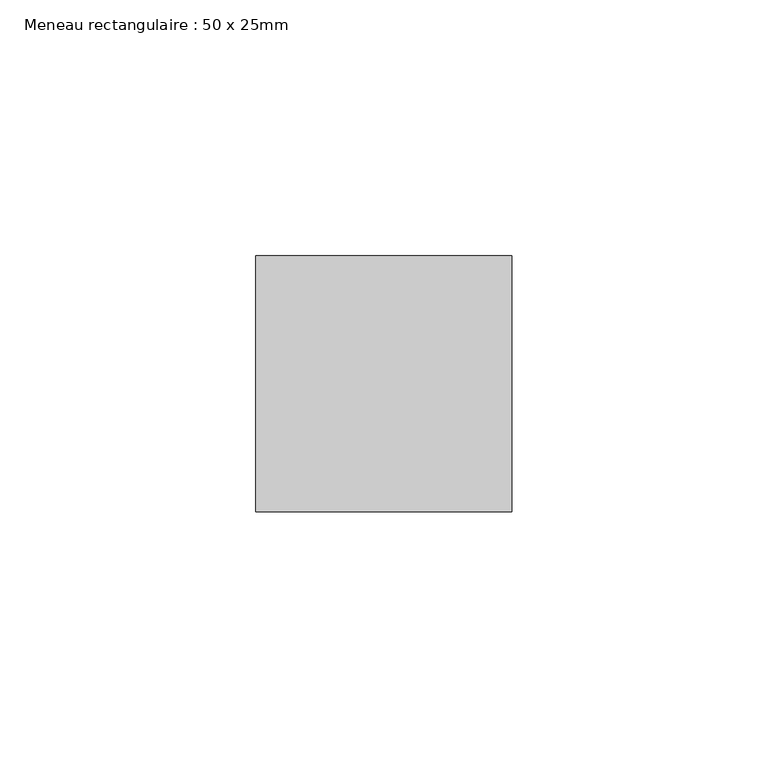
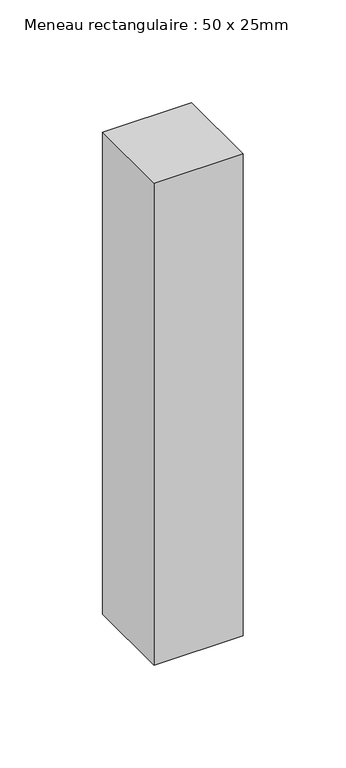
"""IFC4 building model written with IfcOpenShell, lengths in millimetres: member geometry, Meneau rectangulaire : 50 x 25mm."""

from ifc_helpers import new_model, si_unit, frame, origin, place, context, project, spatial, polyline, outline, extrude, source, transform, mapped, element, save


def meneau_rectangulaire_50_x_25mm_455a3bfe(model_context):
    return source(origin(), model_context, "Body", "SweptSolid", [
        extrude(outline(polyline([(25.0, 0.0), (25.0, -50.0), (-25.0, -50.0), (-25.0, 0.0), (25.0, 0.0)])), frame((0.0, 0.0, -286.0), z_axis=(0.0, 0.0, 1.0), x_axis=(1.0, 0.0, 0.0)), (0.0, 0.0, 1.0), 286.0),
    ])


if __name__ == "__main__":
    model = new_model("IFC4")
    model_context = context("Model", 3, world=origin())
    ifc_project = project(units=[si_unit("LENGTHUNIT", "METRE", prefix="MILLI")], contexts=[model_context])
    site = spatial("IfcSite", under=ifc_project)
    building = spatial("IfcBuilding", under=site)
    placement = place(None, origin())
    meneau_rectangulaire_50_x_25mm_shape = meneau_rectangulaire_50_x_25mm_455a3bfe(model_context)
    element("IfcMember", 1, ObjectType="Meneau rectangulaire : 50 x 25mm", at=placement, inside=building, context=model_context, shape_type="MappedRepresentation", body=[
        mapped(meneau_rectangulaire_50_x_25mm_shape, transform((0.0, 0.0, 0.0), x_axis=(1.0, 0.0, 0.0), y_axis=(0.0, 1.0, 0.0), z_axis=(0.0, 0.0, 1.0))),
    ])
    save(model, "model.ifc")
